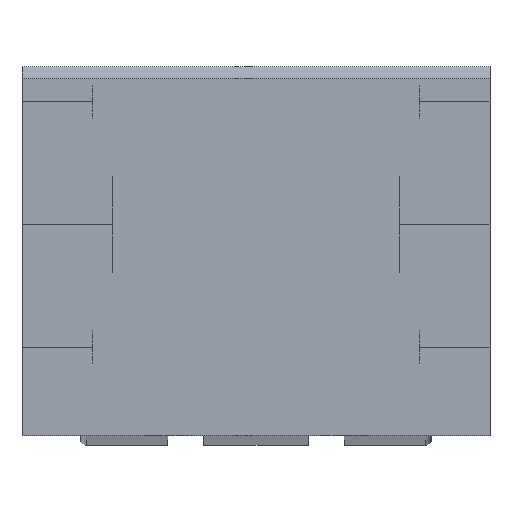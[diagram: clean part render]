
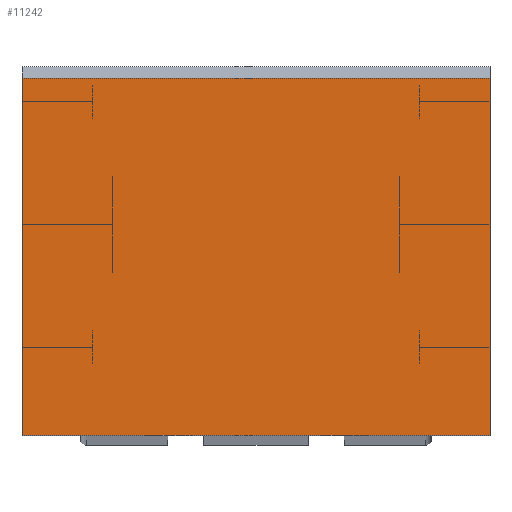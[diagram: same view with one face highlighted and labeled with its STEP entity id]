
A CAD part, top view. The second image highlights one B-rep face of the part: STEP entity #11242.
In plain terms, the highlighted planar face has unit normal (0, 0, 1).
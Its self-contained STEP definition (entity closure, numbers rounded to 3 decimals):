
#30 = EDGE_LOOP ( 'NONE', ( #8025, #2316, #4095, #731 ) ) ;
#731 = ORIENTED_EDGE ( 'NONE', *, *, #10959, .F. ) ;
#1037 = LINE ( 'NONE', #9346, #9670 ) ;
#1048 = CARTESIAN_POINT ( 'NONE',  ( 40., 0., 29.5 ) ) ;
#2316 = ORIENTED_EDGE ( 'NONE', *, *, #6332, .T. ) ;
#2741 = DIRECTION ( 'NONE',  ( -1., 0., 0. ) ) ;
#2987 = LINE ( 'NONE', #16626, #16456 ) ;
#4078 = DIRECTION ( 'NONE',  ( 0., -1., 0. ) ) ;
#4095 = ORIENTED_EDGE ( 'NONE', *, *, #15099, .T. ) ;
#5241 = DIRECTION ( 'NONE',  ( 0., -1., 0. ) ) ;
#5299 = CARTESIAN_POINT ( 'NONE',  ( -40., 61., 29.5 ) ) ;
#5554 = VERTEX_POINT ( 'NONE', #15834 ) ;
#6332 = EDGE_CURVE ( 'NONE', #7513, #18005, #1037, .T. ) ;
#6371 = PLANE ( 'NONE',  #12936 ) ;
#6666 = VECTOR ( 'NONE', #5241, 1000. ) ;
#7513 = VERTEX_POINT ( 'NONE', #17412 ) ;
#7650 = FACE_OUTER_BOUND ( 'NONE', #30, .T. ) ;
#8025 = ORIENTED_EDGE ( 'NONE', *, *, #17584, .F. ) ;
#8094 = DIRECTION ( 'NONE',  ( 0., 1., 0. ) ) ;
#9346 = CARTESIAN_POINT ( 'NONE',  ( 40., 61., 29.5 ) ) ;
#9387 = DIRECTION ( 'NONE',  ( 0., 0., -1. ) ) ;
#9412 = VECTOR ( 'NONE', #2741, 1000. ) ;
#9415 = CARTESIAN_POINT ( 'NONE',  ( 40., 0., 29.5 ) ) ;
#9670 = VECTOR ( 'NONE', #14051, 1000. ) ;
#10959 = EDGE_CURVE ( 'NONE', #5554, #12727, #16655, .T. ) ;
#11242 = ADVANCED_FACE ( 'NONE', ( #7650 ), #6371, .F. ) ;
#11464 = CARTESIAN_POINT ( 'NONE',  ( -40., 0., 29.5 ) ) ;
#12727 = VERTEX_POINT ( 'NONE', #11464 ) ;
#12936 = AXIS2_PLACEMENT_3D ( 'NONE', #17567, #9387, #8094 ) ;
#13946 = LINE ( 'NONE', #1048, #6666 ) ;
#14051 = DIRECTION ( 'NONE',  ( -1., 0., 0. ) ) ;
#15099 = EDGE_CURVE ( 'NONE', #18005, #12727, #2987, .T. ) ;
#15834 = CARTESIAN_POINT ( 'NONE',  ( 40., 0., 29.5 ) ) ;
#16456 = VECTOR ( 'NONE', #4078, 1000. ) ;
#16626 = CARTESIAN_POINT ( 'NONE',  ( -40., 0., 29.5 ) ) ;
#16655 = LINE ( 'NONE', #9415, #9412 ) ;
#17412 = CARTESIAN_POINT ( 'NONE',  ( 40., 61., 29.5 ) ) ;
#17567 = CARTESIAN_POINT ( 'NONE',  ( 40., 0., 29.5 ) ) ;
#17584 = EDGE_CURVE ( 'NONE', #7513, #5554, #13946, .T. ) ;
#18005 = VERTEX_POINT ( 'NONE', #5299 ) ;
